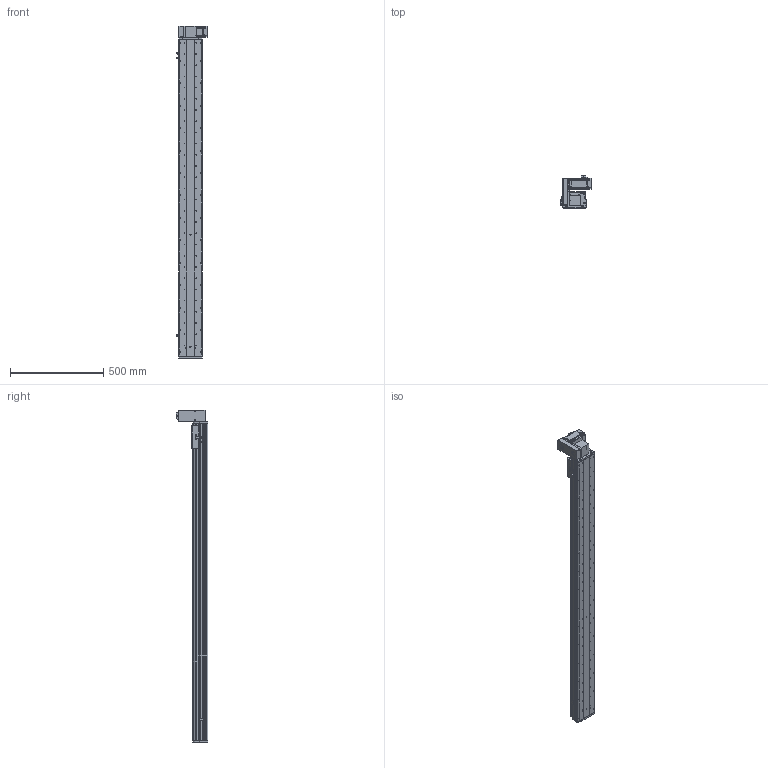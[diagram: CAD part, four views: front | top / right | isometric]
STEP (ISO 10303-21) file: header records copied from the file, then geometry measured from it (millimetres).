
FILE_DESCRIPTION (( 'STEP AP214' ), '1' );
FILE_NAME ('KSD125B-S1500-MRU-CM.STEP', '2017-10-21T07:52:38', ( '微软用户' ), ( '微软中国' ), 'SwSTEP 2.0', 'SolidWorks 2014', '' );
FILE_SCHEMA (( 'AUTOMOTIVE_DESIGN' ));
Length unit declared in the file: millimetre
Products named in the file (17): HTPA30S3M150_A_H6_a萇儂蚚; 100宽马达安装板连板上下折丝杆同步带; KSD125模组1500行程同步带-防尘盖; 125模组1500行程同步带-底板; MHMD042G1CA_2_03; KSD125模组同步带-防撞垫2; 覜茼え68遵圉猾敕; U倰嫖萇假蚾璃; U倰嫖萇EEㄜSX672; KSD125模组同步带-防撞垫1; 100宽马达安装板同步带右; 前端板-125宽模组同步带; 125模组同步带-尾端板1; KSD125模组同步带-滑动座1; KSD125B-S1500-MRU-CM; 悵誘欶奻狟殏; HTPA30S3M150_A_H6_a佪裝蚚
Assembly tree (20 placements, depth 2):
  KSD125B-S1500-MRU-CM
    KSD125模组同步带-滑动座1
    125模组同步带-尾端板1
    前端板-125宽模组同步带
    100宽马达安装板同步带右
    KSD125模组同步带-防撞垫1
    U倰嫖萇EEㄜSX672  x3
    U倰嫖萇假蚾璃  x3
    覜茼え68遵圉猾敕
    KSD125模组同步带-防撞垫2
    MHMD042G1CA_2_03
    125模组1500行程同步带-底板
    KSD125模组1500行程同步带-防尘盖
    100宽马达安装板连板上下折丝杆同步带
    HTPA30S3M150_A_H6_a萇儂蚚
    HTPA30S3M150_A_H6_a佪裝蚚
    悵誘欶奻狟殏
Bounding box: 168.7 x 170.5 x 1777 mm (x, y, z)
Volume: 5258046.6 mm3; surface area: 1742609.6 mm2
Topology: 19 solids, 22 shells, 2397 faces, 6955 edges, 4598 vertices
Faces by surface type: cylinder 1532, plane 738, cone 105, bspline 22
Entity records: 85901 total; most frequent: CARTESIAN_POINT 16905, DIRECTION 13340, ORIENTED_EDGE 12430, EDGE_CURVE 6293, AXIS2_PLACEMENT_3D 5181, VERTEX_POINT 4190, CIRCLE 3002, VECTOR 2978
